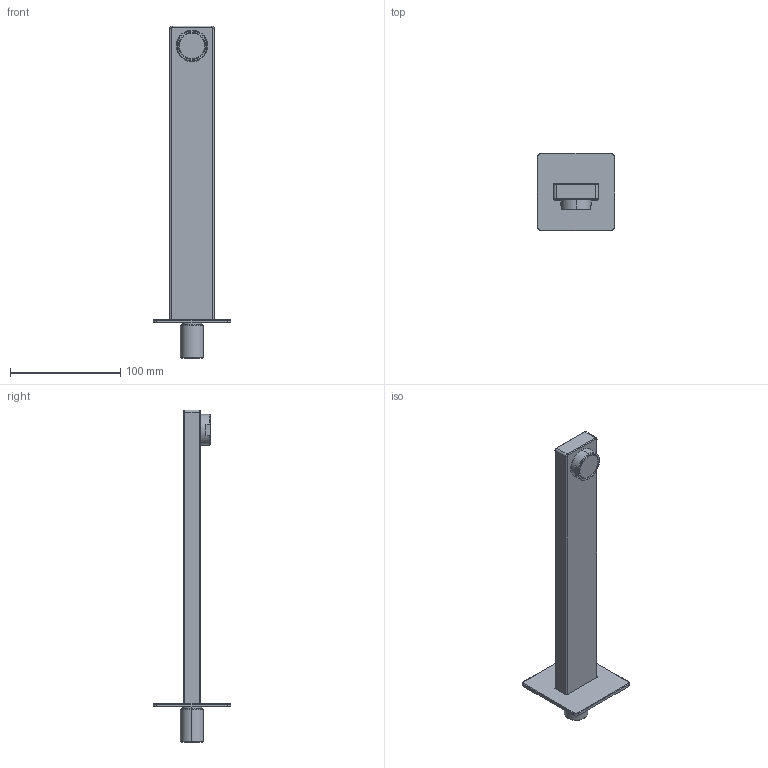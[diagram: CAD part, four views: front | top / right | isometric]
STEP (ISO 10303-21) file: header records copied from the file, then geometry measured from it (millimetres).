
FILE_DESCRIPTION (( 'STEP AP203' ), '1' );
FILE_NAME ('BVQ2.STEP', '2024-02-01T15:45:04', ( '' ), ( '' ), 'SwSTEP 2.0', 'SolidWorks 2023', '' );
FILE_SCHEMA (( 'CONFIG_CONTROL_DESIGN' ));
Length unit declared in the file: millimetre
Products named in the file (7): C24.0595.00.0; C13.00.0015; C11.15.0005; C25.1347.00.1; BVQ2; C12.00.0001; C24.2703.00
Assembly tree (7 placements, depth 2):
  BVQ2
    C24.0595.00.0
    C24.2703.00
    C25.1347.00.1
    C12.00.0001
    C11.15.0005  x2
    C13.00.0015
Bounding box: 70 x 70 x 300.8 mm (x, y, z)
Volume: 176560.6 mm3; surface area: 56099.1 mm2
Topology: 8 solids, 8 shells, 181 faces, 410 edges, 252 vertices
Faces by surface type: cylinder 68, plane 59, cone 38, torus 16
Entity records: 5775 total; most frequent: CARTESIAN_POINT 968, DIRECTION 940, ORIENTED_EDGE 784, EDGE_CURVE 392, AXIS2_PLACEMENT_3D 382, VERTEX_POINT 244, CIRCLE 199, EDGE_LOOP 196
